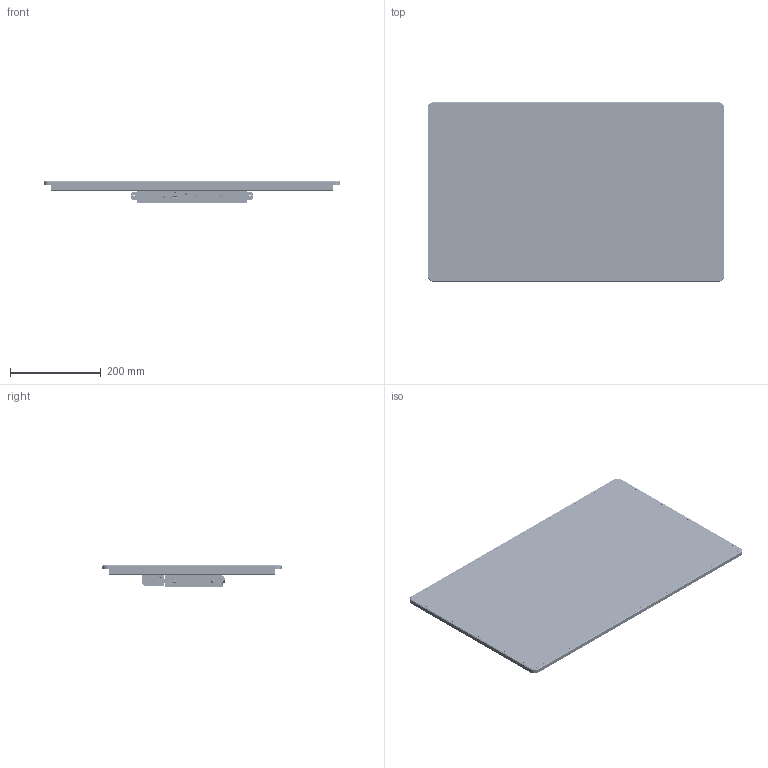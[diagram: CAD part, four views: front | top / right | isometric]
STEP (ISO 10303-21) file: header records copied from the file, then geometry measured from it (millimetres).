
FILE_DESCRIPTION (( 'STEP AP214' ), '1' );
FILE_NAME ('MON1027APv2.STEP', '2025-04-09T20:56:02', ( '' ), ( '' ), 'SwSTEP 2.0', 'SolidWorks 2019', '' );
FILE_SCHEMA (( 'AUTOMOTIVE_DESIGN' ));
Length unit declared in the file: inch
Products named in the file (3): 2221-1000B; MON1027APv2; 2221-1027AP
Assembly tree (2 placements, depth 2):
  MON1027APv2
    2221-1027AP
    2221-1000B
Bounding box: 654.6 x 395 x 48.85 mm (x, y, z)
Volume: 5914514.7 mm3; surface area: 2417198.1 mm2
Topology: 95 solids, 96 shells, 9694 faces, 26028 edges, 17002 vertices
Faces by surface type: plane 6966, cylinder 1654, bspline 744, cone 302, torus 21, sphere 7
Entity records: 474806 total; most frequent: CARTESIAN_POINT 111138, ORIENTED_EDGE 51906, DIRECTION 43143, EDGE_CURVE 25953, VECTOR 19579, LINE 19579, VERTEX_POINT 17001, AXIS2_PLACEMENT_3D 11782
